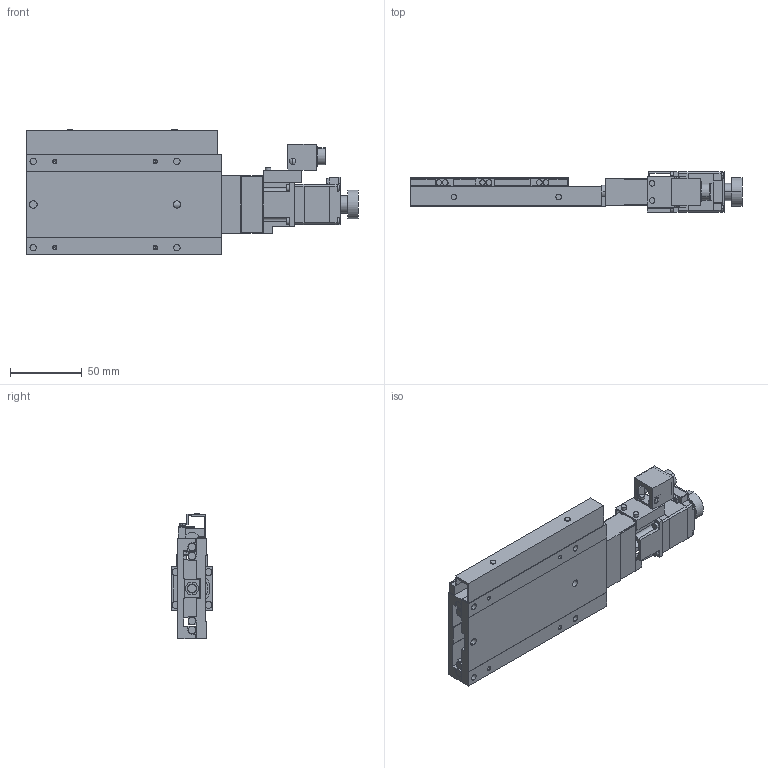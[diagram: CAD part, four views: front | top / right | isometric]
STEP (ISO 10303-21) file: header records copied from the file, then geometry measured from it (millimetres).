
FILE_DESCRIPTION(('STEP AP203'),'1');
FILE_NAME('C:/3D-Trans/3D_PG750M-L□-E4+241108.step','2024-11-08T04:21:50',(' '),(' '),'Spatial InterOp 3D',' ',' ');
FILE_SCHEMA(('CONFIG_CONTROL_DESIGN'));
Length unit declared in the file: millimetre
Products named in the file (6): 1; 2; 3; 4; 5; 6
Bounding box: 231 x 28 x 87.4 mm (x, y, z)
Volume: 182600.1 mm3; surface area: 89780.4 mm2
Topology: 6 solids, 7 shells, 742 faces, 1900 edges, 1206 vertices
Faces by surface type: plane 434, cylinder 228, cone 76, sphere 4
Entity records: 22747 total; most frequent: CARTESIAN_POINT 4018, DIRECTION 3945, ORIENTED_EDGE 3752, EDGE_CURVE 1876, AXIS2_PLACEMENT_3D 1329, LINE 1287, VECTOR 1287, VERTEX_POINT 1206
